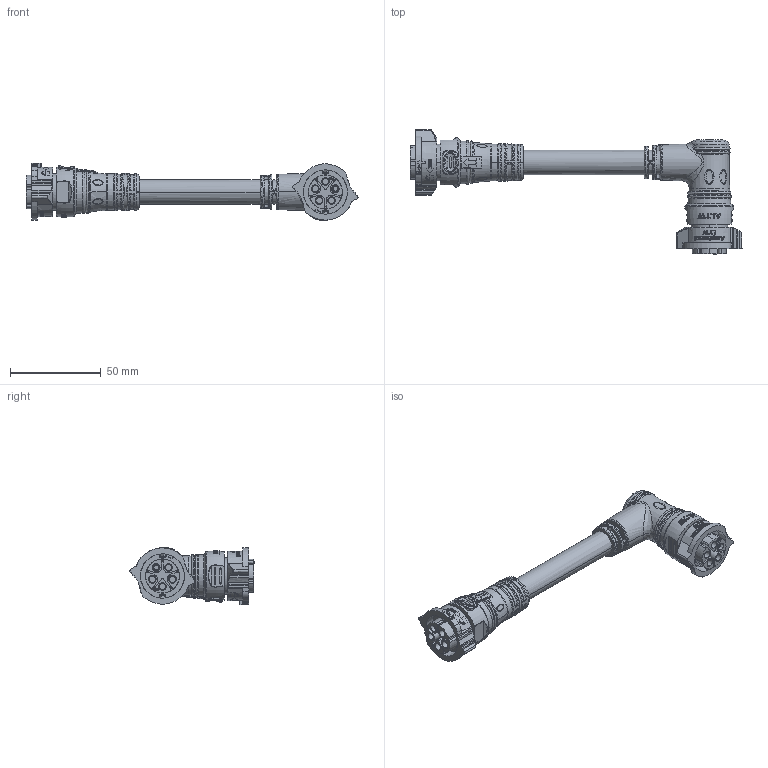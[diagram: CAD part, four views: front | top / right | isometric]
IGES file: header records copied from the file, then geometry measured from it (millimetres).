
Start section:  PTC IGES file: ab-dcxxfl-dcfr-qexxx_sw0001.igs
Global section: file name: ab-dcxxfl-dcfr-qexxx_sw0001.igs; native system: Creo Parametric by Parametric Technology Corporation; preprocessor: 2017170; author: L100003; organization: Unknown; date: 20200207.095719; units: millimetre
Bounding box: 183.05 x 68.6 x 31.6 mm (x, y, z)
Volume: 67605.9 mm3; surface area: 25441.1 mm2
Topology: 1 solids, 1 shells, 1995 faces, 5405 edges, 3534 vertices
Faces by surface type: bspline 1038, revolution 521, extrusion 436
